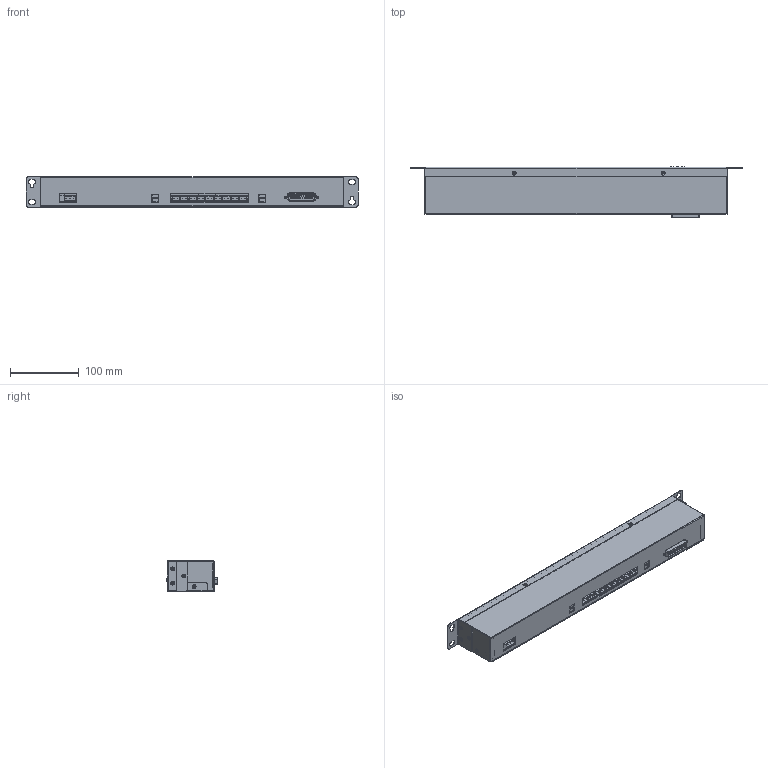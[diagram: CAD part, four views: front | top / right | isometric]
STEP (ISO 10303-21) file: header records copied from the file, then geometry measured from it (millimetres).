
FILE_DESCRIPTION(('Creo Elements/Direct Modeling STEP Export'),'2;1');
FILE_NAME('RCP-MU.stp','2020-05-28T 9:42:48',(''),(''),'PTC Creo Elements/Direct Modeling STEP processor for AP214 (Solid Model)','PTC Creo Elements/Direct Modeling 19.0 09-May-2014 (C) Parametric Technology GmbH','');
FILE_SCHEMA(('AUTOMOTIVE_DESIGN { 1 0 10303 214 1 1 1 1 }'));
Length unit declared in the file: millimetre
Products named in the file (21): pcb; ÊpPCB; ME030-508.1.1.1.1.1; ME030; led.1.2.1.1; led.1.2.2; Ñ}û—; LED.1; 3éÐËÉƒ¿; PCB2; PCBB.1; SUB-9PIN; M3-10Lê°˜W.1.1.1.1.1.1.2; NEW¨e£\; ˋ°Ûy; a1; ff.1; ¨■¥ñ.1; ME030-508.2; EE; all
Assembly tree (45 placements, depth 4):
  all
    EE
    ME030-508.2
    ¨■¥ñ.1  x2
    ff.1  x2
    a1
      ˋ°Ûy
        NEW¨e£\
        M3-10Lê°˜W.1.1.1.1.1.1.2  x6
    PCBB.1  x3
      3éÐËÉƒ¿
      PCB2
      LED.1
    SUB-9PIN
    Ñ}û—
      led.1.2.2  x3
      led.1.2.1.1  x3
    ME030
      ME030-508.1.1.1.1.1  x9
    ÊpPCB
    pcb
Bounding box: 483.6 x 73.25 x 44 mm (x, y, z)
Volume: 201891.9 mm3; surface area: 323333.2 mm2
Topology: 51 solids, 51 shells, 2905 faces, 7269 edges, 4806 vertices
Faces by surface type: plane 1693, cylinder 1122, torus 46, cone 44
Entity records: 27499 total; most frequent: ORIENTED_EDGE 4598, DIRECTION 4452, CARTESIAN_POINT 4437, EDGE_CURVE 2299, AXIS2_PLACEMENT_3D 1515, VERTEX_POINT 1500, VECTOR 1422, LINE 1422
